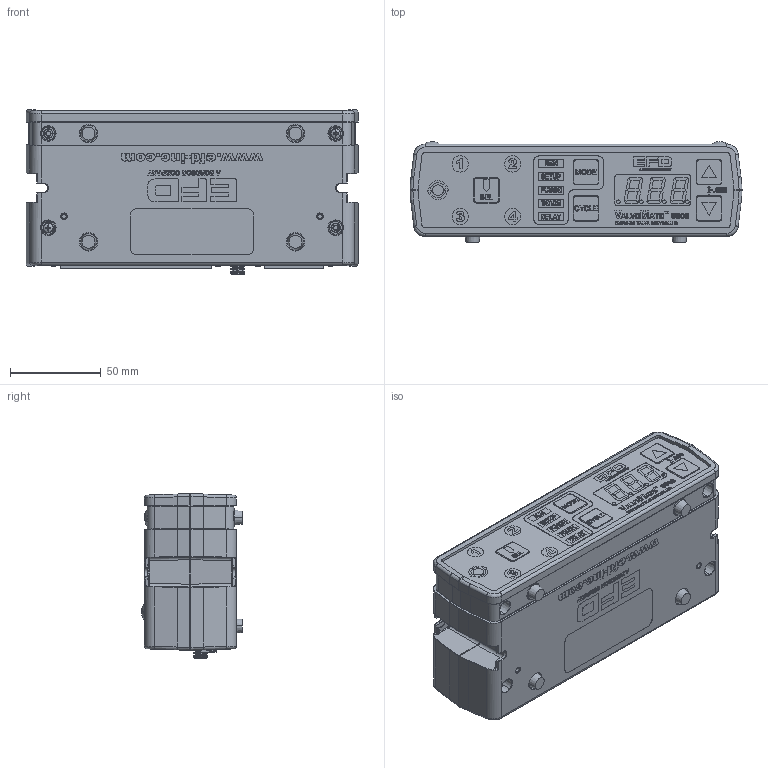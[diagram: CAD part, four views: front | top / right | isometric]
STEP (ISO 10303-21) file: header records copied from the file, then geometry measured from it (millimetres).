
FILE_DESCRIPTION (( 'STEP AP214' ), '1' );
FILE_NAME ('NORDSONEFD-7022004 VALVEMATE 8000.STEP', '2018-12-21T07:56:34', ( '' ), ( '' ), 'SwSTEP 2.0', 'SolidWorks 2018', '' );
FILE_SCHEMA (( 'AUTOMOTIVE_DESIGN' ));
Length unit declared in the file: inch
Products named in the file (1): NORDSONEFD-7022004 VALVEMATE 8000
Bounding box: 183.4 x 55.7 x 91.06 mm (x, y, z)
Volume: 716997.1 mm3; surface area: 74583.6 mm2
Topology: 1 solids, 1 shells, 6899 faces, 18263 edges, 11872 vertices
Faces by surface type: plane 4304, bspline 1546, cylinder 557, cone 270, torus 182, sphere 40
Entity records: 299761 total; most frequent: CARTESIAN_POINT 122799, ORIENTED_EDGE 36494, DIRECTION 27579, EDGE_CURVE 18247, LINE 12379, VECTOR 12379, VERTEX_POINT 11872, EDGE_LOOP 7645
